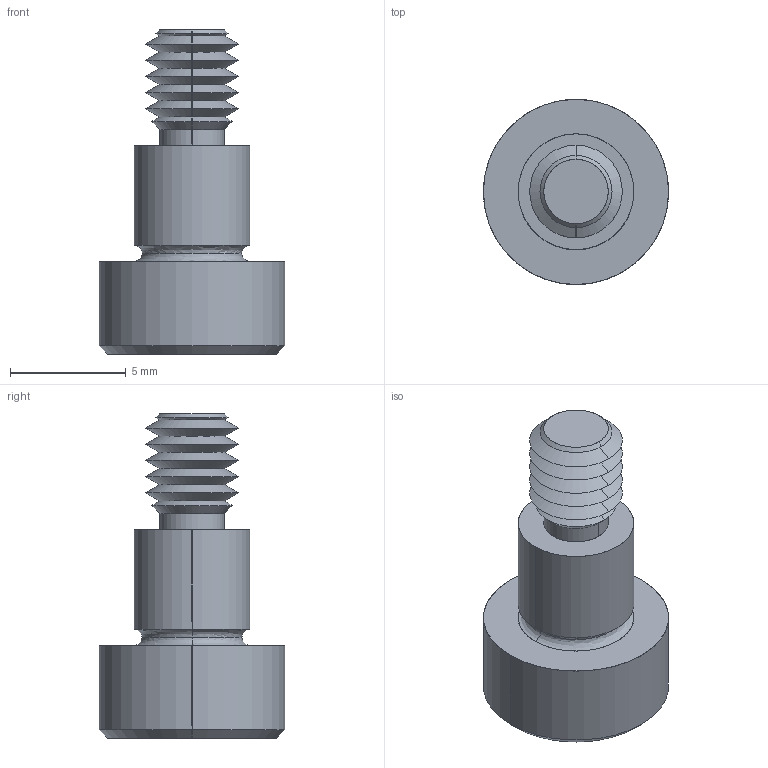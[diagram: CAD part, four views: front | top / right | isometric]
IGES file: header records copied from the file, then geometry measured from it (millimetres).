
Start section: SolidWorks IGES file using analytic representation for surfaces
Global section: file name: C:\Users\IanO\Documents\Temp Folder\GENERAL\SCREW REVISION\P0130_v2\P0130.T5_v2_20220106_IGES\P0130.050-005-T5.igs; native system: SolidWorks 2019; preprocessor: SolidWorks 2019; author: IanO; date: 220106.221302; units: millimetre
Bounding box: 8 x 8 x 14 mm (x, y, z)
Surface area: 394.5 mm2 (no closed solid volume)
Topology: 0 solids, 0 shells, 64 faces, 504 edges, 502 vertices
Faces by surface type: revolution 44, bspline 20
